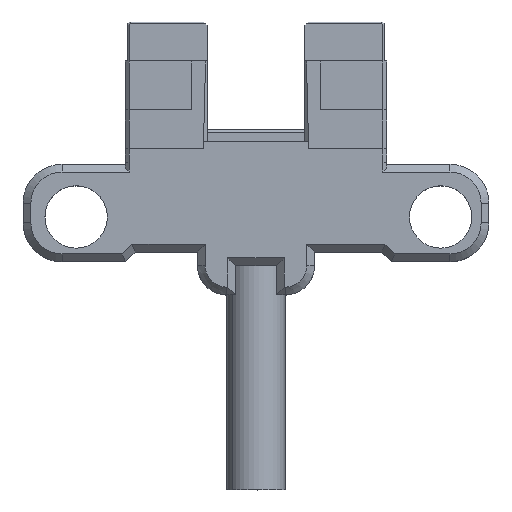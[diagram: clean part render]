
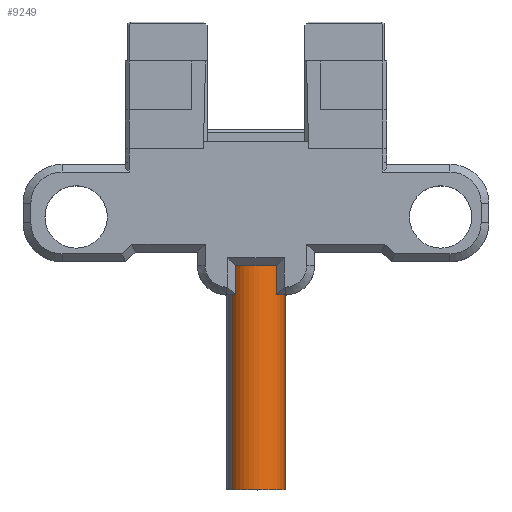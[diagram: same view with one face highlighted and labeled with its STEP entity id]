
A CAD part, top view. The second image highlights one B-rep face of the part: STEP entity #9249.
In plain terms, the highlighted cylindrical face has radius 1.5 mm (diameter 3 mm), a partial arc.
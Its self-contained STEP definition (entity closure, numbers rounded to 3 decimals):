
#245 = FACE_OUTER_BOUND ( 'NONE', #1885, .T. ) ;
#515 = VECTOR ( 'NONE', #1701, 1000. ) ;
#1166 = ORIENTED_EDGE ( 'NONE', *, *, #7236, .T. ) ;
#1642 = DIRECTION ( 'NONE',  ( 0., 0., -1. ) ) ;
#1701 = DIRECTION ( 'NONE',  ( 0., 1., 0. ) ) ;
#1885 = EDGE_LOOP ( 'NONE', ( #2808, #1166, #6344, #9344 ) ) ;
#1977 = AXIS2_PLACEMENT_3D ( 'NONE', #3097, #4892, #4152 ) ;
#2062 = EDGE_CURVE ( 'NONE', #5626, #9163, #8891, .T. ) ;
#2264 = CARTESIAN_POINT ( 'NONE',  ( -11.577, -14.189, 11.417 ) ) ;
#2565 = DIRECTION ( 'NONE',  ( 0., 1., 0. ) ) ;
#2635 = DIRECTION ( 'NONE',  ( 0., 0., -1. ) ) ;
#2808 = ORIENTED_EDGE ( 'NONE', *, *, #3696, .F. ) ;
#2903 = CARTESIAN_POINT ( 'NONE',  ( -11.577, -14.189, 14.417 ) ) ;
#3097 = CARTESIAN_POINT ( 'NONE',  ( -11.577, -27.189, 12.917 ) ) ;
#3221 = CARTESIAN_POINT ( 'NONE',  ( -11.577, -27.189, 14.417 ) ) ;
#3345 = VECTOR ( 'NONE', #2565, 1000. ) ;
#3672 = DIRECTION ( 'NONE',  ( 0., -1., 0. ) ) ;
#3696 = EDGE_CURVE ( 'NONE', #4440, #6419, #6556, .T. ) ;
#4152 = DIRECTION ( 'NONE',  ( 0., 0., 1. ) ) ;
#4440 = VERTEX_POINT ( 'NONE', #9545 ) ;
#4755 = EDGE_CURVE ( 'NONE', #6419, #9163, #8232, .T. ) ;
#4892 = DIRECTION ( 'NONE',  ( 0., 1., 0. ) ) ;
#5626 = VERTEX_POINT ( 'NONE', #2264 ) ;
#5752 = AXIS2_PLACEMENT_3D ( 'NONE', #6279, #10028, #2635 ) ;
#6279 = CARTESIAN_POINT ( 'NONE',  ( -11.577, -14.189, 12.917 ) ) ;
#6330 = LINE ( 'NONE', #9954, #3345 ) ;
#6344 = ORIENTED_EDGE ( 'NONE', *, *, #2062, .T. ) ;
#6419 = VERTEX_POINT ( 'NONE', #3221 ) ;
#6556 = CIRCLE ( 'NONE', #10093, 1.5 ) ;
#6919 = CYLINDRICAL_SURFACE ( 'NONE', #1977, 1.5 ) ;
#7236 = EDGE_CURVE ( 'NONE', #4440, #5626, #6330, .T. ) ;
#8232 = LINE ( 'NONE', #8290, #515 ) ;
#8290 = CARTESIAN_POINT ( 'NONE',  ( -11.577, -27.189, 14.417 ) ) ;
#8891 = CIRCLE ( 'NONE', #5752, 1.5 ) ;
#9053 = CARTESIAN_POINT ( 'NONE',  ( -11.577, -27.189, 12.917 ) ) ;
#9163 = VERTEX_POINT ( 'NONE', #2903 ) ;
#9249 = ADVANCED_FACE ( 'NONE', ( #245 ), #6919, .T. ) ;
#9344 = ORIENTED_EDGE ( 'NONE', *, *, #4755, .F. ) ;
#9545 = CARTESIAN_POINT ( 'NONE',  ( -11.577, -27.189, 11.417 ) ) ;
#9954 = CARTESIAN_POINT ( 'NONE',  ( -11.577, -27.189, 11.417 ) ) ;
#10028 = DIRECTION ( 'NONE',  ( 0., -1., 0. ) ) ;
#10093 = AXIS2_PLACEMENT_3D ( 'NONE', #9053, #3672, #1642 ) ;
